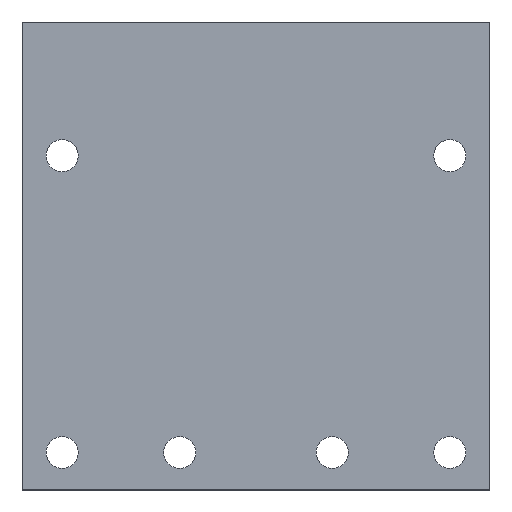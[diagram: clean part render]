
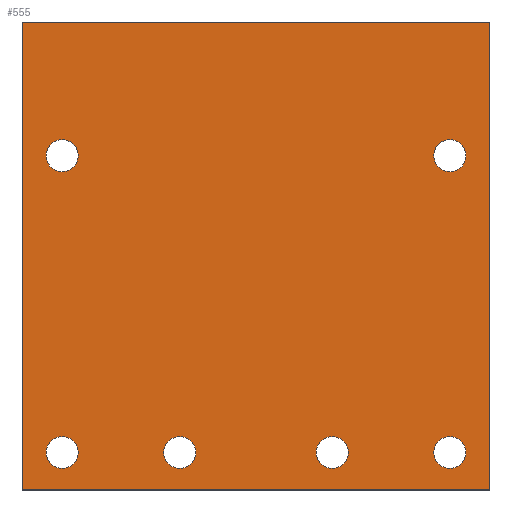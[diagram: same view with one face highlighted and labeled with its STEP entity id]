
A CAD part, top view. The second image highlights one B-rep face of the part: STEP entity #555.
In plain terms, the highlighted planar face has unit normal (0, 0, 1).
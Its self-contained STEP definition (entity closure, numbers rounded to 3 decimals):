
#1 = EDGE_CURVE ( 'NONE', #165, #653, #182, .T. ) ;
#10 = CIRCLE ( 'NONE', #202, 1.2 ) ;
#12 = CARTESIAN_POINT ( 'NONE',  ( 3., 25., 3. ) ) ;
#14 = CARTESIAN_POINT ( 'NONE',  ( 3., 2.8, 3. ) ) ;
#20 = CARTESIAN_POINT ( 'NONE',  ( 32., 2.8, 3. ) ) ;
#24 = EDGE_CURVE ( 'NONE', #273, #214, #462, .T. ) ;
#26 = ORIENTED_EDGE ( 'NONE', *, *, #483, .T. ) ;
#29 = ORIENTED_EDGE ( 'NONE', *, *, #269, .T. ) ;
#31 = AXIS2_PLACEMENT_3D ( 'NONE', #12, #471, #375 ) ;
#32 = DIRECTION ( 'NONE',  ( 0., 0., -1. ) ) ;
#33 = DIRECTION ( 'NONE',  ( -1., 0., 0. ) ) ;
#44 = ORIENTED_EDGE ( 'NONE', *, *, #392, .T. ) ;
#45 = DIRECTION ( 'NONE',  ( 0., 0., -1. ) ) ;
#51 = CARTESIAN_POINT ( 'NONE',  ( 32., 25., 3. ) ) ;
#52 = VECTOR ( 'NONE', #538, 1000. ) ;
#55 = CARTESIAN_POINT ( 'NONE',  ( 35., 35., 3. ) ) ;
#57 = ORIENTED_EDGE ( 'NONE', *, *, #585, .T. ) ;
#58 = DIRECTION ( 'NONE',  ( -1., 0., 0. ) ) ;
#64 = VERTEX_POINT ( 'NONE', #605 ) ;
#68 = LINE ( 'NONE', #219, #409 ) ;
#72 = VECTOR ( 'NONE', #329, 1000. ) ;
#73 = CARTESIAN_POINT ( 'NONE',  ( 11.8, 2.8, 3. ) ) ;
#77 = FACE_BOUND ( 'NONE', #271, .T. ) ;
#78 = VERTEX_POINT ( 'NONE', #440 ) ;
#82 = DIRECTION ( 'NONE',  ( 0., 0., -1. ) ) ;
#93 = EDGE_CURVE ( 'NONE', #355, #333, #331, .T. ) ;
#102 = ORIENTED_EDGE ( 'NONE', *, *, #377, .T. ) ;
#105 = CIRCLE ( 'NONE', #191, 1.2 ) ;
#109 = CARTESIAN_POINT ( 'NONE',  ( 3., 2.8, 3. ) ) ;
#111 = ORIENTED_EDGE ( 'NONE', *, *, #1, .T. ) ;
#126 = DIRECTION ( 'NONE',  ( -1., 0., 0. ) ) ;
#133 = FACE_BOUND ( 'NONE', #205, .T. ) ;
#142 = DIRECTION ( 'NONE',  ( -1., 0., 0. ) ) ;
#151 = CARTESIAN_POINT ( 'NONE',  ( 0., 35., 3. ) ) ;
#162 = ORIENTED_EDGE ( 'NONE', *, *, #357, .T. ) ;
#165 = VERTEX_POINT ( 'NONE', #240 ) ;
#169 = FACE_OUTER_BOUND ( 'NONE', #285, .T. ) ;
#170 = CIRCLE ( 'NONE', #476, 1.2 ) ;
#173 = CARTESIAN_POINT ( 'NONE',  ( 11.8, 2.8, 3. ) ) ;
#177 = VERTEX_POINT ( 'NONE', #391 ) ;
#182 = LINE ( 'NONE', #335, #72 ) ;
#184 = CARTESIAN_POINT ( 'NONE',  ( 1.8, 2.8, 3. ) ) ;
#187 = DIRECTION ( 'NONE',  ( 0., -1., 0. ) ) ;
#189 = LINE ( 'NONE', #671, #510 ) ;
#191 = AXIS2_PLACEMENT_3D ( 'NONE', #674, #45, #241 ) ;
#193 = AXIS2_PLACEMENT_3D ( 'NONE', #448, #82, #664 ) ;
#195 = CARTESIAN_POINT ( 'NONE',  ( 10.6, 2.8, 3. ) ) ;
#196 = EDGE_LOOP ( 'NONE', ( #251, #635 ) ) ;
#202 = AXIS2_PLACEMENT_3D ( 'NONE', #578, #311, #262 ) ;
#205 = EDGE_LOOP ( 'NONE', ( #326, #44 ) ) ;
#214 = VERTEX_POINT ( 'NONE', #195 ) ;
#215 = DIRECTION ( 'NONE',  ( 0., 0., -1. ) ) ;
#217 = CARTESIAN_POINT ( 'NONE',  ( 13., 2.8, 3. ) ) ;
#218 = EDGE_LOOP ( 'NONE', ( #410, #644 ) ) ;
#219 = CARTESIAN_POINT ( 'NONE',  ( 35., 0., 3. ) ) ;
#222 = AXIS2_PLACEMENT_3D ( 'NONE', #20, #656, #33 ) ;
#223 = VERTEX_POINT ( 'NONE', #296 ) ;
#224 = CIRCLE ( 'NONE', #614, 1.2 ) ;
#240 = CARTESIAN_POINT ( 'NONE',  ( 0., 0., 3. ) ) ;
#241 = DIRECTION ( 'NONE',  ( -1., 0., 0. ) ) ;
#251 = ORIENTED_EDGE ( 'NONE', *, *, #348, .T. ) ;
#258 = CIRCLE ( 'NONE', #193, 1.2 ) ;
#260 = ORIENTED_EDGE ( 'NONE', *, *, #610, .T. ) ;
#262 = DIRECTION ( 'NONE',  ( -1., 0., 0. ) ) ;
#263 = CARTESIAN_POINT ( 'NONE',  ( 33.2, 25., 3. ) ) ;
#268 = VERTEX_POINT ( 'NONE', #263 ) ;
#269 = EDGE_CURVE ( 'NONE', #532, #78, #319, .T. ) ;
#270 = DIRECTION ( 'NONE',  ( 0., 0., -1. ) ) ;
#271 = EDGE_LOOP ( 'NONE', ( #162, #306 ) ) ;
#272 = FACE_BOUND ( 'NONE', #218, .T. ) ;
#273 = VERTEX_POINT ( 'NONE', #217 ) ;
#277 = DIRECTION ( 'NONE',  ( -1., 0., 0. ) ) ;
#281 = DIRECTION ( 'NONE',  ( 0., 0., -1. ) ) ;
#282 = DIRECTION ( 'NONE',  ( -1., 0., 0. ) ) ;
#285 = EDGE_LOOP ( 'NONE', ( #412, #111, #26, #642 ) ) ;
#289 = CIRCLE ( 'NONE', #378, 1.2 ) ;
#296 = CARTESIAN_POINT ( 'NONE',  ( 22., 2.8, 3. ) ) ;
#303 = EDGE_CURVE ( 'NONE', #268, #350, #646, .T. ) ;
#306 = ORIENTED_EDGE ( 'NONE', *, *, #473, .T. ) ;
#308 = DIRECTION ( 'NONE',  ( 0., 0., -1. ) ) ;
#311 = DIRECTION ( 'NONE',  ( 0., 0., -1. ) ) ;
#312 = VERTEX_POINT ( 'NONE', #55 ) ;
#314 = CARTESIAN_POINT ( 'NONE',  ( 33.2, 2.8, 3. ) ) ;
#319 = CIRCLE ( 'NONE', #31, 1.2 ) ;
#326 = ORIENTED_EDGE ( 'NONE', *, *, #93, .T. ) ;
#329 = DIRECTION ( 'NONE',  ( 1., 0., 0. ) ) ;
#331 = CIRCLE ( 'NONE', #222, 1.2 ) ;
#333 = VERTEX_POINT ( 'NONE', #314 ) ;
#335 = CARTESIAN_POINT ( 'NONE',  ( 0., 0., 3. ) ) ;
#341 = AXIS2_PLACEMENT_3D ( 'NONE', #523, #270, #58 ) ;
#348 = EDGE_CURVE ( 'NONE', #350, #268, #443, .T. ) ;
#350 = VERTEX_POINT ( 'NONE', #416 ) ;
#355 = VERTEX_POINT ( 'NONE', #365 ) ;
#357 = EDGE_CURVE ( 'NONE', #668, #177, #289, .T. ) ;
#365 = CARTESIAN_POINT ( 'NONE',  ( 30.8, 2.8, 3. ) ) ;
#375 = DIRECTION ( 'NONE',  ( -1., 0., 0. ) ) ;
#377 = EDGE_CURVE ( 'NONE', #64, #223, #607, .T. ) ;
#378 = AXIS2_PLACEMENT_3D ( 'NONE', #109, #477, #468 ) ;
#379 = PLANE ( 'NONE',  #394 ) ;
#382 = VERTEX_POINT ( 'NONE', #151 ) ;
#391 = CARTESIAN_POINT ( 'NONE',  ( 4.2, 2.8, 3. ) ) ;
#392 = EDGE_CURVE ( 'NONE', #333, #355, #10, .T. ) ;
#394 = AXIS2_PLACEMENT_3D ( 'NONE', #596, #32, #142 ) ;
#403 = EDGE_CURVE ( 'NONE', #312, #382, #570, .T. ) ;
#409 = VECTOR ( 'NONE', #654, 1000. ) ;
#410 = ORIENTED_EDGE ( 'NONE', *, *, #551, .T. ) ;
#412 = ORIENTED_EDGE ( 'NONE', *, *, #669, .T. ) ;
#416 = CARTESIAN_POINT ( 'NONE',  ( 30.8, 25., 3. ) ) ;
#423 = DIRECTION ( 'NONE',  ( -1., 0., 0. ) ) ;
#428 = DIRECTION ( 'NONE',  ( 0., 0., -1. ) ) ;
#432 = AXIS2_PLACEMENT_3D ( 'NONE', #51, #308, #518 ) ;
#440 = CARTESIAN_POINT ( 'NONE',  ( 1.8, 25., 3. ) ) ;
#443 = CIRCLE ( 'NONE', #341, 1.2 ) ;
#448 = CARTESIAN_POINT ( 'NONE',  ( 3., 25., 3. ) ) ;
#462 = CIRCLE ( 'NONE', #553, 1.2 ) ;
#468 = DIRECTION ( 'NONE',  ( -1., 0., 0. ) ) ;
#471 = DIRECTION ( 'NONE',  ( 0., 0., -1. ) ) ;
#473 = EDGE_CURVE ( 'NONE', #177, #668, #224, .T. ) ;
#476 = AXIS2_PLACEMENT_3D ( 'NONE', #173, #281, #126 ) ;
#477 = DIRECTION ( 'NONE',  ( 0., 0., -1. ) ) ;
#483 = EDGE_CURVE ( 'NONE', #653, #312, #68, .T. ) ;
#491 = FACE_BOUND ( 'NONE', #196, .T. ) ;
#510 = VECTOR ( 'NONE', #187, 1000. ) ;
#518 = DIRECTION ( 'NONE',  ( -1., 0., 0. ) ) ;
#523 = CARTESIAN_POINT ( 'NONE',  ( 32., 25., 3. ) ) ;
#532 = VERTEX_POINT ( 'NONE', #535 ) ;
#535 = CARTESIAN_POINT ( 'NONE',  ( 4.2, 25., 3. ) ) ;
#538 = DIRECTION ( 'NONE',  ( -1., 0., 0. ) ) ;
#539 = EDGE_LOOP ( 'NONE', ( #260, #29 ) ) ;
#540 = EDGE_LOOP ( 'NONE', ( #57, #102 ) ) ;
#551 = EDGE_CURVE ( 'NONE', #214, #273, #170, .T. ) ;
#552 = DIRECTION ( 'NONE',  ( 0., 0., -1. ) ) ;
#553 = AXIS2_PLACEMENT_3D ( 'NONE', #73, #552, #282 ) ;
#555 = ADVANCED_FACE ( 'NONE', ( #77, #491, #608, #133, #272, #643, #169 ), #379, .F. ) ;
#570 = LINE ( 'NONE', #600, #52 ) ;
#578 = CARTESIAN_POINT ( 'NONE',  ( 32., 2.8, 3. ) ) ;
#581 = AXIS2_PLACEMENT_3D ( 'NONE', #630, #215, #423 ) ;
#585 = EDGE_CURVE ( 'NONE', #223, #64, #105, .T. ) ;
#596 = CARTESIAN_POINT ( 'NONE',  ( 0., 0., 3. ) ) ;
#600 = CARTESIAN_POINT ( 'NONE',  ( 0., 35., 3. ) ) ;
#605 = CARTESIAN_POINT ( 'NONE',  ( 24.4, 2.8, 3. ) ) ;
#607 = CIRCLE ( 'NONE', #581, 1.2 ) ;
#608 = FACE_BOUND ( 'NONE', #540, .T. ) ;
#610 = EDGE_CURVE ( 'NONE', #78, #532, #258, .T. ) ;
#614 = AXIS2_PLACEMENT_3D ( 'NONE', #14, #428, #277 ) ;
#630 = CARTESIAN_POINT ( 'NONE',  ( 23.2, 2.8, 3. ) ) ;
#635 = ORIENTED_EDGE ( 'NONE', *, *, #303, .T. ) ;
#642 = ORIENTED_EDGE ( 'NONE', *, *, #403, .T. ) ;
#643 = FACE_BOUND ( 'NONE', #539, .T. ) ;
#644 = ORIENTED_EDGE ( 'NONE', *, *, #24, .T. ) ;
#646 = CIRCLE ( 'NONE', #432, 1.2 ) ;
#653 = VERTEX_POINT ( 'NONE', #660 ) ;
#654 = DIRECTION ( 'NONE',  ( 0., 1., 0. ) ) ;
#656 = DIRECTION ( 'NONE',  ( 0., 0., -1. ) ) ;
#660 = CARTESIAN_POINT ( 'NONE',  ( 35., 0., 3. ) ) ;
#664 = DIRECTION ( 'NONE',  ( -1., 0., 0. ) ) ;
#668 = VERTEX_POINT ( 'NONE', #184 ) ;
#669 = EDGE_CURVE ( 'NONE', #382, #165, #189, .T. ) ;
#671 = CARTESIAN_POINT ( 'NONE',  ( 0., 0., 3. ) ) ;
#674 = CARTESIAN_POINT ( 'NONE',  ( 23.2, 2.8, 3. ) ) ;
